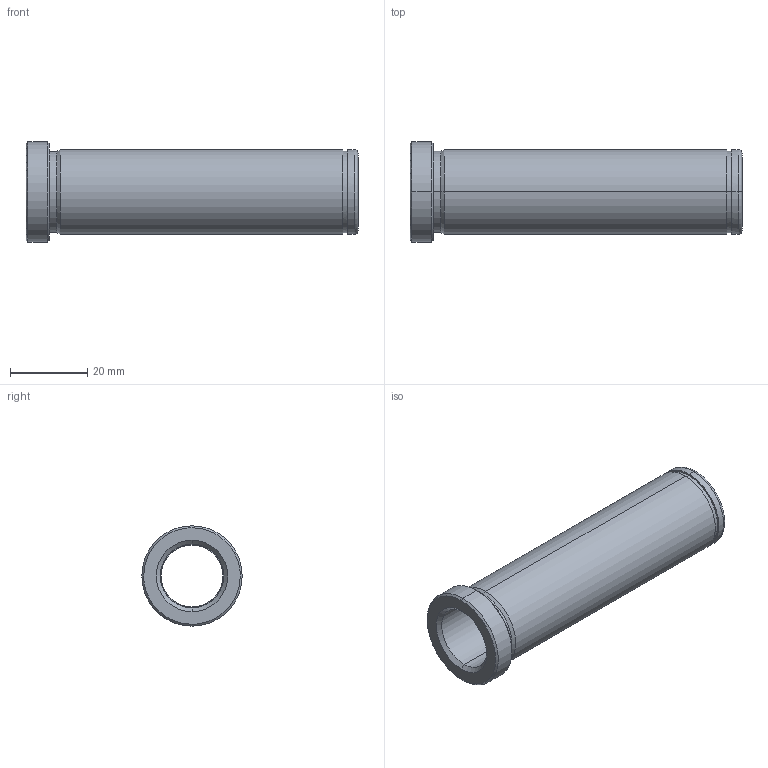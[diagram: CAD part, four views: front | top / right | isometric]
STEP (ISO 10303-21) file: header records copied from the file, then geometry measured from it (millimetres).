
FILE_DESCRIPTION(('CATIA V5 STEP Exchange'),'2;1');
FILE_NAME('C:\Users\Utente\Desktop\IO LAVORO\3D X SITO CF\X SITO\PLASTICA\553\553-16X86.stp','2021-05-21T18:43:14+00:00',('none'),('none'),'CATIA Version 5 Release 20 GA (IN-10)','CATIA V5 STEP AP203','none');
FILE_SCHEMA(('CONFIG_CONTROL_DESIGN'));
Length unit declared in the file: millimetre
Products named in the file (1): 553-16X86
Bounding box: 86 x 26 x 26 mm (x, y, z)
Volume: 15581.2 mm3; surface area: 11024.3 mm2
Topology: 1 solids, 1 shells, 32 faces, 102 edges, 76 vertices
Faces by surface type: cylinder 14, cone 8, plane 6, torus 4
Entity records: 1334 total; most frequent: CARTESIAN_POINT 389, ORIENTED_EDGE 204, DIRECTION 152, EDGE_CURVE 102, AXIS2_PLACEMENT_3D 99, VERTEX_POINT 76, CIRCLE 66, EDGE_LOOP 38
